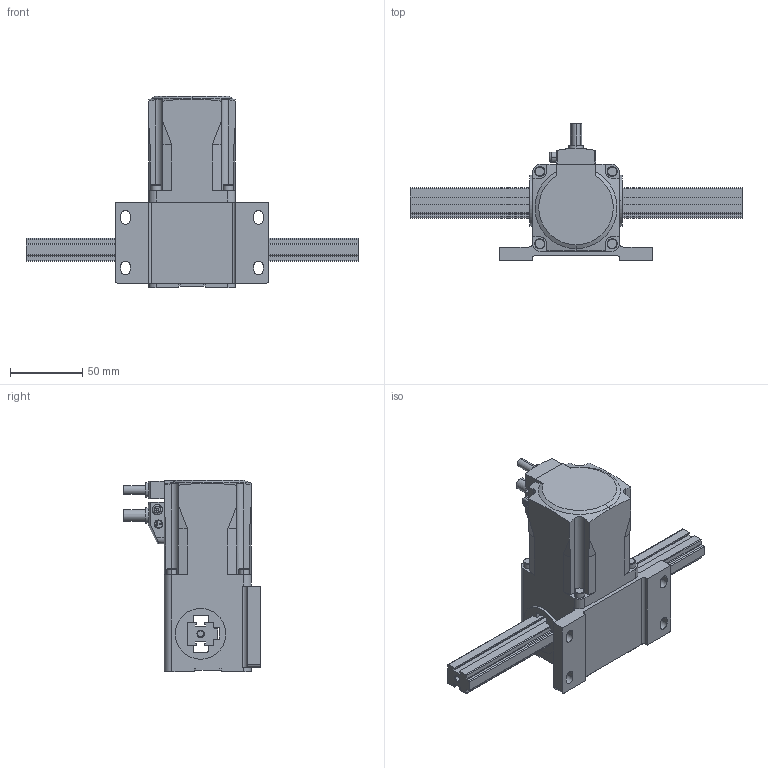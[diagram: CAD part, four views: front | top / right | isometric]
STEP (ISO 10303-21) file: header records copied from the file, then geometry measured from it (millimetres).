
FILE_DESCRIPTION (( 'STEP AP203' ), '1' );
FILE_NAME ('LM2B500AZAC-1.STEP', '2018-09-13T08:23:19', ( 'om' ), ( 'Hewlett-Packard Company' ), 'SwSTEP 2.0', 'SolidWorks 2017', '' );
FILE_SCHEMA (( 'CONFIG_CONTROL_DESIGN' ));
Length unit declared in the file: millimetre
Products named in the file (3): LM2B500AZAC-□_BASE; LM2-1_MovingPart; LM2B500AZAC-1
Assembly tree (2 placements, depth 2):
  LM2B500AZAC-1
    LM2B500AZAC-□_BASE
    LM2-1_MovingPart
Bounding box: 229.4 x 94.3 x 132 mm (x, y, z)
Volume: 529025.7 mm3; surface area: 76748.2 mm2
Topology: 2 solids, 6 shells, 327 faces, 847 edges, 556 vertices
Faces by surface type: plane 188, cylinder 111, cone 22, torus 3, sphere 2, bspline 1
Entity records: 10593 total; most frequent: CARTESIAN_POINT 2055, DIRECTION 1753, ORIENTED_EDGE 1694, EDGE_CURVE 847, AXIS2_PLACEMENT_3D 592, LINE 569, VECTOR 569, VERTEX_POINT 556
